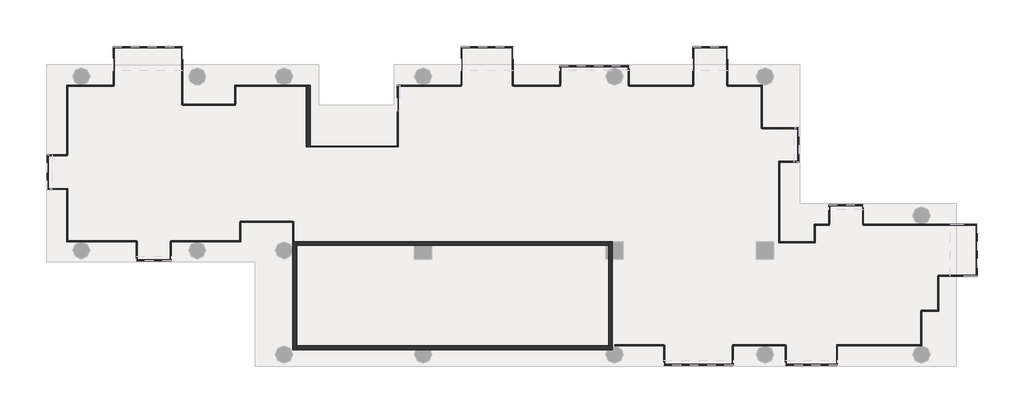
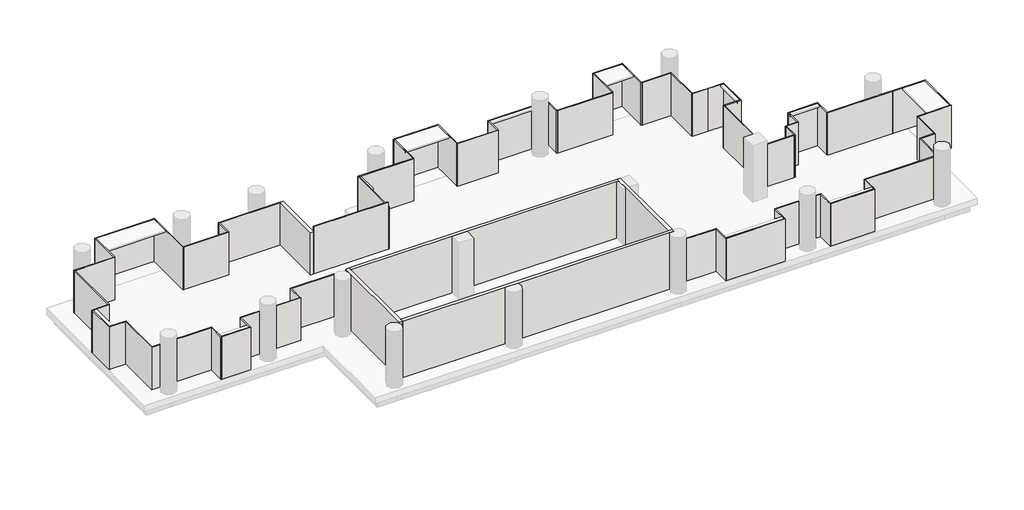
# One storey, part 1 of 2: 68 walls.
"""IFC4 building model written with IfcOpenShell, lengths in millimetres."""

from ifc_helpers import new_model, si_unit, frame, origin, place, context, project, spatial, polyline, outline, extrude, faceted_brep, element, save

model = new_model("IFC4")

# Units and contexts
model_context = context("Model", 3, world=origin())
ifc_project = project(units=[si_unit("LENGTHUNIT", "METRE", prefix="MILLI")], contexts=[model_context])

# Site, building, storey
site = spatial("IfcSite", under=ifc_project)
building = spatial("IfcBuilding", under=site)
storey = spatial("IfcBuildingStorey", under=building, Name="TW-L 11", Elevation=38799.9999686)

# Walls
placement = place(None, origin())
element("IfcWall", 1, ObjectType="AJN-ARC-CONCRETE WALL-20cm", at=placement, inside=storey, context=model_context, shape_type="Brep", body=[
    faceted_brep([(113050.0, 30750.0, 42399.9999686), (113050.0, 30750.0, 38799.9999686), (113050.0, 25150.0, 38799.9999686), (113050.0, 25150.0, 42399.9999686), (113250.0, 30750.0, 38799.9999686), (113250.0, 30750.0, 42399.9999686), (113250.0, 30550.0, 42399.9999686), (113250.0, 25350.0, 42399.9999686), (113250.0, 25150.0, 42399.9999686), (113250.0, 25150.0, 38799.9999686), (113250.0, 25350.0, 38799.9999686), (113250.0, 30550.0, 38799.9999686), (113097.1743518, 30750.0, 38799.9999686)], [[[0, 1, 2, 3]], [[4, 5, 6, 7, 8, 9, 10, 11]], [[2, 1, 12, 4, 11, 10, 9]], [[0, 3, 8, 7, 6, 5]], [[3, 2, 9, 8]], [[0, 5, 4, 12, 1]]]),
])
element("IfcWall", 2, ObjectType="AJN-ARC-CONCRETE WALL-20cm", at=placement, inside=storey, context=model_context, shape_type="Brep", body=[
    faceted_brep([(113250.0, 25150.0, 38799.9999686), (119425.8342613, 25150.0, 38799.9999686), (120174.1657387, 25150.0, 38799.9999686), (129325.8342613, 25150.0, 38799.9999686), (129600.0, 25150.0, 38799.9999686), (129600.0, 25150.0, 42399.9999686), (129325.8342613, 25150.0, 42399.9999686), (120174.1657387, 25150.0, 42399.9999686), (119425.8342613, 25150.0, 42399.9999686), (113250.0, 25150.0, 42399.9999686), (113250.0, 25350.0, 38799.9999686), (113250.0, 25350.0, 42399.9999686), (129400.0, 25350.0, 42399.9999686), (129600.0, 25350.0, 42399.9999686), (129600.0, 25350.0, 38799.9999686), (129400.0, 25350.0, 38799.9999686), (129600.0, 25338.7482194, 38799.9999686), (129600.0, 25338.7482194, 42399.9999686)], [[[0, 1, 2, 3, 4, 5, 6, 7, 8, 9]], [[10, 11, 12, 13, 14, 15]], [[4, 3, 2, 1, 0, 10, 15, 14, 16]], [[9, 8, 7, 6, 5, 17, 13, 12, 11]], [[5, 4, 16, 14, 13, 17]], [[0, 9, 11, 10]]]),
])
element("IfcWall", 3, ObjectType="AJN-ARC-CONCRETE WALL-20cm", at=placement, inside=storey, context=model_context, shape_type="Brep", body=[
    faceted_brep([(129600.0, 25350.0, 38799.9999686), (129600.0, 29850.0, 38799.9999686), (129600.0, 30750.0, 38799.9999686), (129600.0, 30750.0, 42399.9999686), (129600.0, 29850.0, 42399.9999686), (129600.0, 25350.0, 42399.9999686), (129400.0, 25350.0, 38799.9999686), (129400.0, 25350.0, 42399.9999686), (129400.0, 29850.0, 42399.9999686), (129400.0, 30550.0, 42399.9999686), (129400.0, 30750.0, 42399.9999686), (129400.0, 30750.0, 38799.9999686), (129400.0, 30550.0, 38799.9999686), (129400.0, 29850.0, 38799.9999686)], [[[0, 1, 2, 3, 4, 5]], [[6, 7, 8, 9, 10, 11, 12, 13]], [[2, 1, 0, 6, 13, 12, 11]], [[5, 4, 3, 10, 9, 8, 7]], [[3, 2, 11, 10]], [[0, 5, 7, 6]]]),
])
element("IfcWall", 4, ObjectType="AJN-ARC-CONCRETE WALL-20cm", at=placement, inside=storey, context=model_context, shape_type="Brep", body=[
    faceted_brep([(129400.0, 30750.0, 38799.9999686), (113250.0, 30750.0, 38799.9999686), (113250.0, 30750.0, 42399.9999686), (129400.0, 30750.0, 42399.9999686), (129400.0, 30550.0, 38799.9999686), (129400.0, 30550.0, 42399.9999686), (129250.0, 30550.0, 42399.9999686), (120250.0, 30550.0, 42399.9999686), (119350.0, 30550.0, 42399.9999686), (113250.0, 30550.0, 42399.9999686), (113250.0, 30550.0, 38799.9999686), (119350.0, 30550.0, 38799.9999686), (120250.0, 30550.0, 38799.9999686), (129250.0, 30550.0, 38799.9999686)], [[[0, 1, 2, 3]], [[4, 5, 6, 7, 8, 9, 10, 11, 12, 13]], [[1, 0, 4, 13, 12, 11, 10]], [[3, 2, 9, 8, 7, 6, 5]], [[0, 3, 5, 4]], [[1, 10, 9, 2]]]),
])
element("IfcWall", 5, ObjectType="AJN-ARC-CONCRETE WALL-20cm", at=placement, inside=storey, context=model_context, shape_type="Brep", body=[
    faceted_brep([(113950.0, 35650.0, 38799.9999686), (113950.0, 38850.001152, 38799.9999686), (113950.0, 38850.001152, 41499.9999686), (113950.0, 35650.0, 41499.9999686), (113750.0, 35650.0, 38799.9999686), (113750.0, 35650.0, 41499.9999686), (113750.0, 38800.001105, 41499.9999686), (113750.0, 38850.001105, 41499.9999686), (113750.0, 38850.001105, 38799.9999686), (113750.0, 38800.001105, 38799.9999686)], [[[0, 1, 2, 3]], [[4, 5, 6, 7, 8, 9]], [[1, 0, 4, 9, 8]], [[3, 2, 7, 6, 5]], [[0, 3, 5, 4]], [[2, 1, 8, 7]]]),
])
element("IfcWall", 6, ObjectType="AJN-ARC-GLASS-50mm", at=placement, inside=storey, context=model_context, shape_type="Brep", body=[
    faceted_brep([(113750.0, 38850.001105, 38799.9999686), (110050.0, 38850.0002356, 38799.9999686), (110050.0, 38850.0002356, 41499.9999686), (113750.0, 38850.001105, 41499.9999686), (113750.0, 38800.001105, 38799.9999686), (113750.0, 38800.001105, 41499.9999686), (110100.0, 38800.0002474, 41499.9999686), (110050.0, 38800.0002356, 41499.9999686), (110050.0, 38800.0002356, 38799.9999686), (110100.0, 38800.0002474, 38799.9999686)], [[[0, 1, 2, 3]], [[4, 5, 6, 7, 8, 9]], [[1, 0, 4, 9, 8]], [[3, 2, 7, 6, 5]], [[2, 1, 8, 7]], [[0, 3, 5, 4]]]),
])
element("IfcWall", 7, ObjectType="AJN-ARC-GLASS-50mm", at=placement, inside=storey, context=model_context, shape_type="SweptSolid", body=[
    extrude(outline(polyline([(110050.0, 37850.0), (110050.0, 38800.0002356), (110100.0, 38800.0002474), (110100.0, 37850.0), (110050.0, 37850.0)])), frame((0.0, 0.0, 38799.9999686), z_axis=(0.0, 0.0, 1.0), x_axis=(1.0, 0.0, 0.0)), (0.0, 0.0, 1.0), 2700.0),
])
element("IfcWall", 8, ObjectType="AJN-ARC-GLASS-50mm", at=placement, inside=storey, context=model_context, shape_type="SweptSolid", body=[
    extrude(outline(polyline([(107350.0, 37850.0), (110075.0, 37850.0), (110075.0, 37800.0), (107350.0, 37800.0), (107350.0, 37850.0)])), frame((0.0, 0.0, 38799.9999686), z_axis=(0.0, 0.0, 1.0), x_axis=(1.0, 0.0, 0.0)), (0.0, 0.0, 1.0), 2700.0),
])
element("IfcWall", 9, ObjectType="AJN-ARC-GLASS-50mm", at=placement, inside=storey, context=model_context, shape_type="Brep", body=[
    faceted_brep([(107350.0, 37825.0, 38799.9999686), (107350.0, 40850.0, 38799.9999686), (107350.0, 40850.0, 41499.9999686), (107350.0, 37825.0, 41499.9999686), (107300.0, 37825.0, 38799.9999686), (107300.0, 37825.0, 41499.9999686), (107300.0, 40800.0, 41499.9999686), (107300.0, 40850.0, 41499.9999686), (107300.0, 40850.0, 38799.9999686), (107300.0, 40800.0, 38799.9999686)], [[[0, 1, 2, 3]], [[4, 5, 6, 7, 8, 9]], [[1, 0, 4, 9, 8]], [[3, 2, 7, 6, 5]], [[0, 3, 5, 4]], [[2, 1, 8, 7]]]),
])
element("IfcWall", 10, ObjectType="AJN-ARC-GLASS-50mm", at=placement, inside=storey, context=model_context, shape_type="Brep", body=[
    faceted_brep([(107300.0, 40850.0, 38799.9999686), (103750.0, 40850.0, 38799.9999686), (103750.0, 40850.0, 41499.9999686), (107300.0, 40850.0, 41499.9999686), (107300.0, 40800.0, 38799.9999686), (107300.0, 40800.0, 41499.9999686), (103800.0, 40800.0, 41499.9999686), (103750.0, 40800.0, 41499.9999686), (103750.0, 40800.0, 38799.9999686), (103800.0, 40800.0, 38799.9999686)], [[[0, 1, 2, 3]], [[4, 5, 6, 7, 8, 9]], [[1, 0, 4, 9, 8]], [[3, 2, 7, 6, 5]], [[2, 1, 8, 7]], [[0, 3, 5, 4]]]),
])
element("IfcWall", 11, ObjectType="AJN-ARC-GLASS-50mm", at=placement, inside=storey, context=model_context, shape_type="SweptSolid", body=[
    extrude(outline(polyline([(103750.0, 38850.0), (103750.0, 40800.0), (103800.0, 40800.0), (103800.0, 38850.0), (103750.0, 38850.0)])), frame((0.0, 0.0, 38799.9999686), z_axis=(0.0, 0.0, 1.0), x_axis=(1.0, 0.0, 0.0)), (0.0, 0.0, 1.0), 2700.0),
])
element("IfcWall", 12, ObjectType="AJN-ARC-GLASS-50mm", at=placement, inside=storey, context=model_context, shape_type="Brep", body=[
    faceted_brep([(103775.000012, 38849.999988, 38799.9999686), (101347.1743518, 38850.001152, 38799.9999686), (101347.1743518, 38850.001152, 41499.9999686), (103775.000012, 38849.999988, 41499.9999686), (103774.999988, 38799.999988, 38799.9999686), (103774.999988, 38799.999988, 41499.9999686), (101397.1743518, 38800.001128, 41499.9999686), (101347.1743518, 38800.001152, 41499.9999686), (101347.1743518, 38800.001152, 38799.9999686), (101397.1743518, 38800.001128, 38799.9999686)], [[[0, 1, 2, 3]], [[4, 5, 6, 7, 8, 9]], [[1, 0, 4, 9, 8]], [[3, 2, 7, 6, 5]], [[0, 3, 5, 4]], [[2, 1, 8, 7]]]),
])
element("IfcWall", 13, ObjectType="AJN-ARC-GLASS-50mm", at=placement, inside=storey, context=model_context, shape_type="SweptSolid", body=[
    extrude(outline(polyline([(101347.1743518, 35250.0), (101347.1743518, 38800.001152), (101397.1743518, 38800.001128), (101397.1743518, 35250.0), (101347.1743518, 35250.0)])), frame((0.0, 0.0, 38799.9999686), z_axis=(0.0, 0.0, 1.0), x_axis=(1.0, 0.0, 0.0)), (0.0, 0.0, 1.0), 2700.0),
])
element("IfcWall", 14, ObjectType="AJN-ARC-GLASS-50mm", at=placement, inside=storey, context=model_context, shape_type="Brep", body=[
    faceted_brep([(101372.1743518, 35250.0, 38799.9999686), (100347.1743518, 35250.0, 38799.9999686), (100347.1743518, 35250.0, 41499.9999686), (101372.1743518, 35250.0, 41499.9999686), (101372.1743518, 35200.0, 38799.9999686), (101372.1743518, 35200.0, 41499.9999686), (100397.1743518, 35200.0, 41499.9999686), (100347.1743518, 35200.0, 41499.9999686), (100347.1743518, 35200.0, 38799.9999686), (100397.1743518, 35200.0, 38799.9999686)], [[[0, 1, 2, 3]], [[4, 5, 6, 7, 8, 9]], [[1, 0, 4, 9, 8]], [[3, 2, 7, 6, 5]], [[0, 3, 5, 4]], [[2, 1, 8, 7]]]),
])
element("IfcWall", 15, ObjectType="AJN-ARC-GLASS-50mm", at=placement, inside=storey, context=model_context, shape_type="Brep", body=[
    faceted_brep([(100347.1743518, 35200.0, 38799.9999686), (100347.1743518, 33450.0, 38799.9999686), (100347.1743518, 33450.0, 41499.9999686), (100347.1743518, 35200.0, 41499.9999686), (100397.1743518, 35200.0, 38799.9999686), (100397.1743518, 35200.0, 41499.9999686), (100397.1743518, 33500.0, 41499.9999686), (100397.1743518, 33450.0, 41499.9999686), (100397.1743518, 33450.0, 38799.9999686), (100397.1743518, 33500.0, 38799.9999686)], [[[0, 1, 2, 3]], [[4, 5, 6, 7, 8, 9]], [[1, 0, 4, 9, 8]], [[3, 2, 7, 6, 5]], [[2, 1, 8, 7]], [[0, 3, 5, 4]]]),
])
element("IfcWall", 16, ObjectType="AJN-ARC-GLASS-50mm", at=placement, inside=storey, context=model_context, shape_type="SweptSolid", body=[
    extrude(outline(polyline([(101347.1743518, 33450.0), (100397.1743518, 33450.0), (100397.1743518, 33500.0), (101347.1743518, 33500.0), (101347.1743518, 33450.0)])), frame((0.0, 0.0, 38799.9999686), z_axis=(0.0, 0.0, 1.0), x_axis=(1.0, 0.0, 0.0)), (0.0, 0.0, 1.0), 2700.0),
])
element("IfcWall", 17, ObjectType="AJN-ARC-GLASS-50mm", at=placement, inside=storey, context=model_context, shape_type="Brep", body=[
    faceted_brep([(101347.1743518, 33475.0, 38799.9999686), (101347.1743518, 30750.0, 38799.9999686), (101347.1743518, 30750.0, 41499.9999686), (101347.1743518, 33475.0, 41499.9999686), (101397.1743518, 33475.0, 38799.9999686), (101397.1743518, 33475.0, 41499.9999686), (101397.1743518, 30800.0, 41499.9999686), (101397.1743518, 30750.0, 41499.9999686), (101397.1743518, 30750.0, 38799.9999686), (101397.1743518, 30800.0, 38799.9999686)], [[[0, 1, 2, 3]], [[4, 5, 6, 7, 8, 9]], [[1, 0, 4, 9, 8]], [[3, 2, 7, 6, 5]], [[0, 3, 5, 4]], [[2, 1, 8, 7]]]),
])
element("IfcWall", 18, ObjectType="AJN-ARC-GLASS-50mm", at=placement, inside=storey, context=model_context, shape_type="SweptSolid", body=[
    extrude(outline(polyline([(104947.1743518, 30750.0), (101397.1743518, 30750.0), (101397.1743518, 30800.0), (104947.1743518, 30800.0), (104947.1743518, 30750.0)])), frame((0.0, 0.0, 38799.9999686), z_axis=(0.0, 0.0, 1.0), x_axis=(1.0, 0.0, 0.0)), (0.0, 0.0, 1.0), 2700.0),
])
element("IfcWall", 19, ObjectType="AJN-ARC-GLASS-50mm", at=placement, inside=storey, context=model_context, shape_type="Brep", body=[
    faceted_brep([(104947.1743518, 30775.0, 38799.9999686), (104947.1743518, 29750.0, 38799.9999686), (104947.1743518, 29750.0, 41499.9999686), (104947.1743518, 30775.0, 41499.9999686), (104997.1743518, 30775.0, 38799.9999686), (104997.1743518, 30775.0, 41499.9999686), (104997.1743518, 29800.0, 41499.9999686), (104997.1743518, 29750.0, 41499.9999686), (104997.1743518, 29750.0, 38799.9999686), (104997.1743518, 29800.0, 38799.9999686)], [[[0, 1, 2, 3]], [[4, 5, 6, 7, 8, 9]], [[1, 0, 4, 9, 8]], [[3, 2, 7, 6, 5]], [[0, 3, 5, 4]], [[2, 1, 8, 7]]]),
])
element("IfcWall", 20, ObjectType="AJN-ARC-GLASS-50mm", at=placement, inside=storey, context=model_context, shape_type="Brep", body=[
    faceted_brep([(104997.1743518, 29750.0, 38799.9999686), (106747.1743518, 29750.0, 38799.9999686), (106747.1743518, 29750.0, 41499.9999686), (104997.1743518, 29750.0, 41499.9999686), (104997.1743518, 29800.0, 38799.9999686), (104997.1743518, 29800.0, 41499.9999686), (106697.1743518, 29800.0, 41499.9999686), (106747.1743518, 29800.0, 41499.9999686), (106747.1743518, 29800.0, 38799.9999686), (106697.1743518, 29800.0, 38799.9999686)], [[[0, 1, 2, 3]], [[4, 5, 6, 7, 8, 9]], [[1, 0, 4, 9, 8]], [[3, 2, 7, 6, 5]], [[2, 1, 8, 7]], [[0, 3, 5, 4]]]),
])
element("IfcWall", 21, ObjectType="AJN-ARC-GLASS-50mm", at=placement, inside=storey, context=model_context, shape_type="SweptSolid", body=[
    extrude(outline(polyline([(106747.1743518, 30750.0), (106747.1743518, 29800.0), (106697.1743518, 29800.0), (106697.1743518, 30750.0), (106747.1743518, 30750.0)])), frame((0.0, 0.0, 38799.9999686), z_axis=(0.0, 0.0, 1.0), x_axis=(1.0, 0.0, 0.0)), (0.0, 0.0, 1.0), 2700.0),
])
element("IfcWall", 22, ObjectType="AJN-ARC-GLASS-50mm", at=placement, inside=storey, context=model_context, shape_type="Brep", body=[
    faceted_brep([(106722.1743518, 30750.0, 38799.9999686), (110347.1743518, 30750.0, 38799.9999686), (110347.1743518, 30750.0, 41499.9999686), (106722.1743518, 30750.0, 41499.9999686), (106722.1743518, 30800.0, 38799.9999686), (106722.1743518, 30800.0, 41499.9999686), (110297.1743518, 30800.0, 41499.9999686), (110347.1743518, 30800.0, 41499.9999686), (110347.1743518, 30800.0, 38799.9999686), (110297.1743518, 30800.0, 38799.9999686)], [[[0, 1, 2, 3]], [[4, 5, 6, 7, 8, 9]], [[1, 0, 4, 9, 8]], [[3, 2, 7, 6, 5]], [[0, 3, 5, 4]], [[2, 1, 8, 7]]]),
])
element("IfcWall", 23, ObjectType="AJN-ARC-GLASS-50mm", at=placement, inside=storey, context=model_context, shape_type="SweptSolid", body=[
    extrude(outline(polyline([(110347.1743518, 31750.0), (110347.1743518, 30800.0), (110297.1743518, 30800.0), (110297.1743518, 31750.0), (110347.1743518, 31750.0)])), frame((0.0, 0.0, 38799.9999686), z_axis=(0.0, 0.0, 1.0), x_axis=(1.0, 0.0, 0.0)), (0.0, 0.0, 1.0), 2700.0),
])
element("IfcWall", 24, ObjectType="AJN-ARC-GLASS-50mm", at=placement, inside=storey, context=model_context, shape_type="SweptSolid", body=[
    extrude(outline(polyline([(113047.1743518, 31750.0), (110322.1743518, 31750.0), (110322.1743518, 31800.0), (113047.1743518, 31800.0), (113047.1743518, 31750.0)])), frame((0.0, 0.0, 38799.9999686), z_axis=(0.0, 0.0, 1.0), x_axis=(1.0, 0.0, 0.0)), (0.0, 0.0, 1.0), 2700.0),
])
element("IfcWall", 25, ObjectType="AJN-ARC-GLASS-50mm", at=placement, inside=storey, context=model_context, shape_type="Brep", body=[
    faceted_brep([(113047.1743518, 31775.0, 38799.9999686), (113047.1743518, 30750.0, 38799.9999686), (113047.1743518, 30750.0, 41499.9999686), (113047.1743518, 31775.0, 41499.9999686), (113097.1743518, 31775.0, 38799.9999686), (113097.1743518, 31775.0, 41499.9999686), (113097.1743518, 30750.0, 41499.9999686), (113097.1743518, 30750.0, 38799.9999686), (113050.0, 30750.0, 38799.9999686)], [[[0, 1, 2, 3]], [[4, 5, 6, 7]], [[1, 0, 4, 7, 8]], [[3, 2, 6, 5]], [[0, 3, 5, 4]], [[2, 1, 8, 7, 6]]]),
])
element("IfcWall", 26, ObjectType="AJN-ARC-GLASS-50mm", at=placement, inside=storey, context=model_context, shape_type="Brep", body=[
    faceted_brep([(138250.0, 30700.0, 38799.9999686), (138250.0, 30750.0, 38799.9999686), (138250.0, 34850.0, 38799.9999686), (138250.0, 34850.0, 41499.9999686), (138250.0, 30750.0, 41499.9999686), (138250.0, 30700.0, 41499.9999686), (138200.0, 30700.0, 38799.9999686), (138200.0, 30700.0, 41499.9999686), (138200.0, 34850.0, 41499.9999686), (138200.0, 34850.0, 38799.9999686)], [[[0, 1, 2, 3, 4, 5]], [[6, 7, 8, 9]], [[2, 1, 0, 6, 9]], [[5, 4, 3, 8, 7]], [[0, 5, 7, 6]], [[3, 2, 9, 8]]]),
])
element("IfcWall", 27, ObjectType="AJN-ARC-GLASS-50mm", at=placement, inside=storey, context=model_context, shape_type="Brep", body=[
    faceted_brep([(138200.0, 34850.0, 38799.9999686), (138250.0, 34850.0, 38799.9999686), (139250.0, 34850.0, 38799.9999686), (139250.0, 34850.0, 41499.9999686), (138250.0, 34850.0, 41499.9999686), (138200.0, 34850.0, 41499.9999686), (138200.0, 34900.0, 38799.9999686), (138200.0, 34900.0, 41499.9999686), (139200.0, 34900.0, 41499.9999686), (139250.0, 34900.0, 41499.9999686), (139250.0, 34900.0, 38799.9999686), (139200.0, 34900.0, 38799.9999686)], [[[0, 1, 2, 3, 4, 5]], [[6, 7, 8, 9, 10, 11]], [[2, 1, 0, 6, 11, 10]], [[5, 4, 3, 9, 8, 7]], [[3, 2, 10, 9]], [[0, 5, 7, 6]]]),
])
element("IfcWall", 28, ObjectType="AJN-ARC-GLASS-50mm", at=placement, inside=storey, context=model_context, shape_type="Brep", body=[
    faceted_brep([(139250.0, 34900.0, 38799.9999686), (139250.0, 36650.0, 38799.9999686), (139250.0, 36650.0, 41499.9999686), (139250.0, 34900.0, 41499.9999686), (139200.0, 34900.0, 38799.9999686), (139200.0, 34900.0, 41499.9999686), (139200.0, 36600.0, 41499.9999686), (139200.0, 36650.0, 41499.9999686), (139200.0, 36650.0, 38799.9999686), (139200.0, 36600.0, 38799.9999686)], [[[0, 1, 2, 3]], [[4, 5, 6, 7, 8, 9]], [[1, 0, 4, 9, 8]], [[3, 2, 7, 6, 5]], [[2, 1, 8, 7]], [[0, 3, 5, 4]]]),
])
element("IfcWall", 29, ObjectType="AJN-ARC-GLASS-50mm", at=placement, inside=storey, context=model_context, shape_type="SweptSolid", body=[
    extrude(outline(polyline([(138250.0, 36650.0), (139200.0, 36650.0), (139200.0, 36600.0), (138250.0, 36600.0), (138250.0, 36650.0)])), frame((0.0, 0.0, 38799.9999686), z_axis=(0.0, 0.0, 1.0), x_axis=(1.0, 0.0, 0.0)), (0.0, 0.0, 1.0), 2700.0),
])
element("IfcWall", 30, ObjectType="AJN-ARC-GLASS-50mm", at=placement, inside=storey, context=model_context, shape_type="SweptSolid", body=[
    extrude(outline(polyline([(137350.0, 36650.0), (138250.0, 36650.0), (138250.0, 36600.0), (137350.0, 36600.0), (137350.0, 36650.0)])), frame((0.0, 0.0, 38799.9999686), z_axis=(0.0, 0.0, 1.0), x_axis=(1.0, 0.0, 0.0)), (0.0, 0.0, 1.0), 2700.0),
])
element("IfcWall", 31, ObjectType="AJN-ARC-GLASS-50mm", at=placement, inside=storey, context=model_context, shape_type="Brep", body=[
    faceted_brep([(137350.0, 36625.0, 38799.9999686), (137350.0, 38850.0, 38799.9999686), (137350.0, 38850.0, 41499.9999686), (137350.0, 36625.0, 41499.9999686), (137300.0, 36625.0, 38799.9999686), (137300.0, 36625.0, 41499.9999686), (137300.0, 38800.0, 41499.9999686), (137300.0, 38850.0, 41499.9999686), (137300.0, 38850.0, 38799.9999686), (137300.0, 38800.0, 38799.9999686)], [[[0, 1, 2, 3]], [[4, 5, 6, 7, 8, 9]], [[1, 0, 4, 9, 8]], [[3, 2, 7, 6, 5]], [[0, 3, 5, 4]], [[2, 1, 8, 7]]]),
])
element("IfcWall", 32, ObjectType="AJN-ARC-GLASS-50mm", at=placement, inside=storey, context=model_context, shape_type="SweptSolid", body=[
    extrude(outline(polyline([(135557.0344085, 38850.0), (137300.0, 38850.0), (137300.0, 38800.0), (135557.0344085, 38800.0), (135557.0344085, 38850.0)])), frame((0.0, 0.0, 38799.9999686), z_axis=(0.0, 0.0, 1.0), x_axis=(1.0, 0.0, 0.0)), (0.0, 0.0, 1.0), 2700.0),
])
element("IfcWall", 33, ObjectType="AJN-ARC-GLASS-50mm", at=placement, inside=storey, context=model_context, shape_type="Brep", body=[
    faceted_brep([(135557.0344085, 38825.0, 38799.9999686), (135557.0344085, 40850.0, 38799.9999686), (135557.0344085, 40850.0, 41499.9999686), (135557.0344085, 38825.0, 41499.9999686), (135507.0344085, 38825.0, 38799.9999686), (135507.0344085, 38825.0, 41499.9999686), (135507.0344085, 40800.0, 41499.9999686), (135507.0344085, 40850.0, 41499.9999686), (135507.0344085, 40850.0, 38799.9999686), (135507.0344085, 40800.0, 38799.9999686)], [[[0, 1, 2, 3]], [[4, 5, 6, 7, 8, 9]], [[1, 0, 4, 9, 8]], [[3, 2, 7, 6, 5]], [[0, 3, 5, 4]], [[2, 1, 8, 7]]]),
])
element("IfcWall", 34, ObjectType="AJN-ARC-GLASS-50mm", at=placement, inside=storey, context=model_context, shape_type="Brep", body=[
    faceted_brep([(135507.0344085, 40850.0, 38799.9999686), (133757.0344085, 40850.0, 38799.9999686), (133757.0344085, 40850.0, 41499.9999686), (135507.0344085, 40850.0, 41499.9999686), (135507.0344085, 40800.0, 38799.9999686), (135507.0344085, 40800.0, 41499.9999686), (133807.0344085, 40800.0, 41499.9999686), (133757.0344085, 40800.0, 41499.9999686), (133757.0344085, 40800.0, 38799.9999686), (133807.0344085, 40800.0, 38799.9999686)], [[[0, 1, 2, 3]], [[4, 5, 6, 7, 8, 9]], [[1, 0, 4, 9, 8]], [[3, 2, 7, 6, 5]], [[2, 1, 8, 7]], [[0, 3, 5, 4]]]),
])
element("IfcWall", 35, ObjectType="AJN-ARC-GLASS-50mm", at=placement, inside=storey, context=model_context, shape_type="SweptSolid", body=[
    extrude(outline(polyline([(133757.0344085, 38850.0), (133757.0344085, 40800.0), (133807.0344085, 40800.0), (133807.0344085, 38850.0), (133757.0344085, 38850.0)])), frame((0.0, 0.0, 38799.9999686), z_axis=(0.0, 0.0, 1.0), x_axis=(1.0, 0.0, 0.0)), (0.0, 0.0, 1.0), 2700.0),
])
element("IfcWall", 36, ObjectType="AJN-ARC-GLASS-50mm", at=placement, inside=storey, context=model_context, shape_type="SweptSolid", body=[
    extrude(outline(polyline([(130463.0639015, 38850.0), (133782.0344085, 38850.0), (133782.0344085, 38800.0), (130463.0639015, 38800.0), (130463.0639015, 38850.0)])), frame((0.0, 0.0, 38799.9999686), z_axis=(0.0, 0.0, 1.0), x_axis=(1.0, 0.0, 0.0)), (0.0, 0.0, 1.0), 2700.0),
])
element("IfcWall", 37, ObjectType="AJN-ARC-GLASS-50mm", at=placement, inside=storey, context=model_context, shape_type="Brep", body=[
    faceted_brep([(130463.0639015, 38825.0, 38799.9999686), (130463.0639015, 39850.0, 38799.9999686), (130463.0639015, 39850.0, 41499.9999686), (130463.0639015, 38825.0, 41499.9999686), (130413.0639015, 38825.0, 38799.9999686), (130413.0639015, 38825.0, 41499.9999686), (130413.0639015, 39800.0, 41499.9999686), (130413.0639015, 39850.0, 41499.9999686), (130413.0639015, 39850.0, 38799.9999686), (130413.0639015, 39800.0, 38799.9999686)], [[[0, 1, 2, 3]], [[4, 5, 6, 7, 8, 9]], [[1, 0, 4, 9, 8]], [[3, 2, 7, 6, 5]], [[0, 3, 5, 4]], [[2, 1, 8, 7]]]),
])
element("IfcWall", 38, ObjectType="AJN-ARC-GLASS-50mm", at=placement, inside=storey, context=model_context, shape_type="Brep", body=[
    faceted_brep([(130413.0639015, 39850.0, 38799.9999686), (126863.0639015, 39850.0, 38799.9999686), (126863.0639015, 39850.0, 41499.9999686), (130413.0639015, 39850.0, 41499.9999686), (130413.0639015, 39800.0, 38799.9999686), (130413.0639015, 39800.0, 41499.9999686), (126913.0639015, 39800.0, 41499.9999686), (126863.0639015, 39800.0, 41499.9999686), (126863.0639015, 39800.0, 38799.9999686), (126913.0639015, 39800.0, 38799.9999686)], [[[0, 1, 2, 3]], [[4, 5, 6, 7, 8, 9]], [[1, 0, 4, 9, 8]], [[3, 2, 7, 6, 5]], [[2, 1, 8, 7]], [[0, 3, 5, 4]]]),
])
element("IfcWall", 39, ObjectType="AJN-ARC-GLASS-50mm", at=placement, inside=storey, context=model_context, shape_type="SweptSolid", body=[
    extrude(outline(polyline([(126863.0639015, 38850.0), (126863.0639015, 39800.0), (126913.0639015, 39800.0), (126913.0639015, 38850.0), (126863.0639015, 38850.0)])), frame((0.0, 0.0, 38799.9999686), z_axis=(0.0, 0.0, 1.0), x_axis=(1.0, 0.0, 0.0)), (0.0, 0.0, 1.0), 2700.0),
])
element("IfcWall", 40, ObjectType="AJN-ARC-GLASS-50mm", at=placement, inside=storey, context=model_context, shape_type="SweptSolid", body=[
    extrude(outline(polyline([(124459.0442395, 38850.0), (126888.0639015, 38850.0), (126888.0639015, 38800.0), (124459.0442395, 38800.0), (124459.0442395, 38850.0)])), frame((0.0, 0.0, 38799.9999686), z_axis=(0.0, 0.0, 1.0), x_axis=(1.0, 0.0, 0.0)), (0.0, 0.0, 1.0), 2700.0),
])
element("IfcWall", 41, ObjectType="AJN-ARC-GLASS-50mm", at=placement, inside=storey, context=model_context, shape_type="Brep", body=[
    faceted_brep([(124459.0442395, 38825.0, 38799.9999686), (124459.0442395, 40850.0, 38799.9999686), (124459.0442395, 40850.0, 41499.9999686), (124459.0442395, 38825.0, 41499.9999686), (124409.0442395, 38825.0, 38799.9999686), (124409.0442395, 38825.0, 41499.9999686), (124409.0442395, 40800.0, 41499.9999686), (124409.0442395, 40850.0, 41499.9999686), (124409.0442395, 40850.0, 38799.9999686), (124409.0442395, 40800.0, 38799.9999686)], [[[0, 1, 2, 3]], [[4, 5, 6, 7, 8, 9]], [[1, 0, 4, 9, 8]], [[3, 2, 7, 6, 5]], [[0, 3, 5, 4]], [[2, 1, 8, 7]]]),
])
element("IfcWall", 42, ObjectType="AJN-ARC-GLASS-50mm", at=placement, inside=storey, context=model_context, shape_type="Brep", body=[
    faceted_brep([(124409.0442395, 40850.0, 38799.9999686), (121759.0442395, 40850.0, 38799.9999686), (121759.0442395, 40850.0, 41499.9999686), (124409.0442395, 40850.0, 41499.9999686), (124409.0442395, 40800.0, 38799.9999686), (124409.0442395, 40800.0, 41499.9999686), (121809.0442395, 40800.0, 41499.9999686), (121759.0442395, 40800.0, 41499.9999686), (121759.0442395, 40800.0, 38799.9999686), (121809.0442395, 40800.0, 38799.9999686)], [[[0, 1, 2, 3]], [[4, 5, 6, 7, 8, 9]], [[1, 0, 4, 9, 8]], [[3, 2, 7, 6, 5]], [[2, 1, 8, 7]], [[0, 3, 5, 4]]]),
])
element("IfcWall", 43, ObjectType="AJN-ARC-GLASS-50mm", at=placement, inside=storey, context=model_context, shape_type="SweptSolid", body=[
    extrude(outline(polyline([(121759.0442395, 38850.0), (121759.0442395, 40800.0), (121809.0442395, 40800.0), (121809.0442395, 38850.0), (121759.0442395, 38850.0)])), frame((0.0, 0.0, 38799.9999686), z_axis=(0.0, 0.0, 1.0), x_axis=(1.0, 0.0, 0.0)), (0.0, 0.0, 1.0), 2700.0),
])
element("IfcWall", 44, ObjectType="AJN-ARC-GLASS-50mm", at=placement, inside=storey, context=model_context, shape_type="Brep", body=[
    faceted_brep([(121784.0442395, 38850.0, 38799.9999686), (118450.0, 38850.0, 38799.9999686), (118450.0, 38850.0, 41499.9999686), (121784.0442395, 38850.0, 41499.9999686), (121784.0442395, 38800.0, 38799.9999686), (121784.0442395, 38800.0, 41499.9999686), (118500.0, 38800.0, 41499.9999686), (118450.0, 38800.0, 41499.9999686), (118450.0, 38800.0, 38799.9999686), (118500.0, 38800.0, 38799.9999686)], [[[0, 1, 2, 3]], [[4, 5, 6, 7, 8, 9]], [[1, 0, 4, 9, 8]], [[3, 2, 7, 6, 5]], [[0, 3, 5, 4]], [[2, 1, 8, 7]]]),
])
element("IfcWall", 45, ObjectType="AJN-ARC-GLASS-50mm", at=placement, inside=storey, context=model_context, shape_type="SweptSolid", body=[
    extrude(outline(polyline([(132250.3827907, 25350.0), (129714.068817, 25350.0), (129714.068817, 25400.0), (132250.3827907, 25400.0), (132250.3827907, 25350.0)])), frame((0.0, 0.0, 38799.9999686), z_axis=(0.0, 0.0, 1.0), x_axis=(1.0, 0.0, 0.0)), (0.0, 0.0, 1.0), 2700.0),
])
element("IfcWall", 46, ObjectType="AJN-ARC-GLASS-50mm", at=placement, inside=storey, context=model_context, shape_type="Brep", body=[
    faceted_brep([(132250.3827907, 25375.0, 38799.9999686), (132250.3827907, 24350.0, 38799.9999686), (132250.3827907, 24350.0, 41499.9999686), (132250.3827907, 25375.0, 41499.9999686), (132300.3827907, 25375.0, 38799.9999686), (132300.3827907, 25375.0, 41499.9999686), (132300.3827907, 24400.0, 41499.9999686), (132300.3827907, 24350.0, 41499.9999686), (132300.3827907, 24350.0, 38799.9999686), (132300.3827907, 24400.0, 38799.9999686)], [[[0, 1, 2, 3]], [[4, 5, 6, 7, 8, 9]], [[1, 0, 4, 9, 8]], [[3, 2, 7, 6, 5]], [[0, 3, 5, 4]], [[2, 1, 8, 7]]]),
])
element("IfcWall", 47, ObjectType="AJN-ARC-GLASS-50mm", at=placement, inside=storey, context=model_context, shape_type="Brep", body=[
    faceted_brep([(132300.3827907, 24350.0, 38799.9999686), (135850.3827907, 24350.0, 38799.9999686), (135850.3827907, 24350.0, 41499.9999686), (132300.3827907, 24350.0, 41499.9999686), (132300.3827907, 24400.0, 38799.9999686), (132300.3827907, 24400.0, 41499.9999686), (135800.3827907, 24400.0, 41499.9999686), (135850.3827907, 24400.0, 41499.9999686), (135850.3827907, 24400.0, 38799.9999686), (135800.3827907, 24400.0, 38799.9999686)], [[[0, 1, 2, 3]], [[4, 5, 6, 7, 8, 9]], [[1, 0, 4, 9, 8]], [[3, 2, 7, 6, 5]], [[2, 1, 8, 7]], [[0, 3, 5, 4]]]),
])
element("IfcWall", 48, ObjectType="AJN-ARC-GLASS-50mm", at=placement, inside=storey, context=model_context, shape_type="SweptSolid", body=[
    extrude(outline(polyline([(135850.3827907, 25350.0), (135850.3827907, 24400.0), (135800.3827907, 24400.0), (135800.3827907, 25350.0), (135850.3827907, 25350.0)])), frame((0.0, 0.0, 38799.9999686), z_axis=(0.0, 0.0, 1.0), x_axis=(1.0, 0.0, 0.0)), (0.0, 0.0, 1.0), 2700.0),
])
element("IfcWall", 49, ObjectType="AJN-ARC-GLASS-50mm", at=placement, inside=storey, context=model_context, shape_type="SweptSolid", body=[
    extrude(outline(polyline([(138550.3827907, 25350.0), (135825.3827907, 25350.0), (135825.3827907, 25400.0), (138550.3827907, 25400.0), (138550.3827907, 25350.0)])), frame((0.0, 0.0, 38799.9999686), z_axis=(0.0, 0.0, 1.0), x_axis=(1.0, 0.0, 0.0)), (0.0, 0.0, 1.0), 2700.0),
])
element("IfcWall", 50, ObjectType="AJN-ARC-GLASS-50mm", at=placement, inside=storey, context=model_context, shape_type="Brep", body=[
    faceted_brep([(138550.3827907, 25375.0, 38799.9999686), (138550.3827907, 24350.0, 38799.9999686), (138550.3827907, 24350.0, 41499.9999686), (138550.3827907, 25375.0, 41499.9999686), (138600.3827907, 25375.0, 38799.9999686), (138600.3827907, 25375.0, 41499.9999686), (138600.3827907, 24400.0, 41499.9999686), (138600.3827907, 24350.0, 41499.9999686), (138600.3827907, 24350.0, 38799.9999686), (138600.3827907, 24400.0, 38799.9999686)], [[[0, 1, 2, 3]], [[4, 5, 6, 7, 8, 9]], [[1, 0, 4, 9, 8]], [[3, 2, 7, 6, 5]], [[0, 3, 5, 4]], [[2, 1, 8, 7]]]),
])
element("IfcWall", 51, ObjectType="AJN-ARC-GLASS-50mm", at=placement, inside=storey, context=model_context, shape_type="Brep", body=[
    faceted_brep([(138600.3827907, 24350.0, 38799.9999686), (141250.3827907, 24350.0, 38799.9999686), (141250.3827907, 24350.0, 41499.9999686), (138600.3827907, 24350.0, 41499.9999686), (138600.3827907, 24400.0, 38799.9999686), (138600.3827907, 24400.0, 41499.9999686), (141200.3827907, 24400.0, 41499.9999686), (141250.3827907, 24400.0, 41499.9999686), (141250.3827907, 24400.0, 38799.9999686), (141200.3827907, 24400.0, 38799.9999686)], [[[0, 1, 2, 3]], [[4, 5, 6, 7, 8, 9]], [[1, 0, 4, 9, 8]], [[3, 2, 7, 6, 5]], [[2, 1, 8, 7]], [[0, 3, 5, 4]]]),
])
element("IfcWall", 52, ObjectType="AJN-ARC-GLASS-50mm", at=placement, inside=storey, context=model_context, shape_type="SweptSolid", body=[
    extrude(outline(polyline([(141250.3827907, 25350.0), (141250.3827907, 24400.0), (141200.3827907, 24400.0), (141200.3827907, 25350.0), (141250.3827907, 25350.0)])), frame((0.0, 0.0, 38799.9999686), z_axis=(0.0, 0.0, 1.0), x_axis=(1.0, 0.0, 0.0)), (0.0, 0.0, 1.0), 2700.0),
])
element("IfcWall", 53, ObjectType="AJN-ARC-GLASS-50mm", at=placement, inside=storey, context=model_context, shape_type="Brep", body=[
    faceted_brep([(141225.3827907, 25350.0, 38799.9999686), (145613.2302513, 25350.0, 38799.9999686), (145613.2302513, 25350.0, 41499.9999686), (141225.3827907, 25350.0, 41499.9999686), (141225.3827907, 25400.0, 38799.9999686), (141225.3827907, 25400.0, 41499.9999686), (145563.2302513, 25400.0, 41499.9999686), (145613.2302513, 25400.0, 41499.9999686), (145613.2302513, 25400.0, 38799.9999686), (145563.2302513, 25400.0, 38799.9999686)], [[[0, 1, 2, 3]], [[4, 5, 6, 7, 8, 9]], [[1, 0, 4, 9, 8]], [[3, 2, 7, 6, 5]], [[0, 3, 5, 4]], [[2, 1, 8, 7]]]),
])
element("IfcWall", 54, ObjectType="AJN-ARC-GLASS-50mm", at=placement, inside=storey, context=model_context, shape_type="SweptSolid", body=[
    extrude(outline(polyline([(145613.2302513, 27150.8137487), (145613.2302513, 25400.0), (145563.2302513, 25400.0), (145563.2302513, 27150.8137487), (145613.2302513, 27150.8137487)])), frame((0.0, 0.0, 38799.9999686), z_axis=(0.0, 0.0, 1.0), x_axis=(1.0, 0.0, 0.0)), (0.0, 0.0, 1.0), 2700.0),
])
element("IfcWall", 55, ObjectType="AJN-ARC-GLASS-50mm", at=placement, inside=storey, context=model_context, shape_type="Brep", body=[
    faceted_brep([(145588.2302513, 27150.8137487, 38799.9999686), (146497.681474, 27150.8137487, 38799.9999686), (146497.681474, 27150.8137487, 41499.9999686), (145588.2302513, 27150.8137487, 41499.9999686), (145588.2302513, 27200.8137487, 38799.9999686), (145588.2302513, 27200.8137487, 41499.9999686), (146447.681474, 27200.8137487, 41499.9999686), (146497.681474, 27200.8137487, 41499.9999686), (146497.681474, 27200.8137487, 38799.9999686), (146447.681474, 27200.8137487, 38799.9999686)], [[[0, 1, 2, 3]], [[4, 5, 6, 7, 8, 9]], [[1, 0, 4, 9, 8]], [[3, 2, 7, 6, 5]], [[0, 3, 5, 4]], [[2, 1, 8, 7]]]),
])
element("IfcWall", 56, ObjectType="AJN-ARC-GLASS-50mm", at=placement, inside=storey, context=model_context, shape_type="SweptSolid", body=[
    extrude(outline(polyline([(146497.681474, 28951.6593424), (146497.681474, 27200.8137487), (146447.681474, 27200.8137487), (146447.681474, 28951.6593424), (146497.681474, 28951.6593424)])), frame((0.0, 0.0, 38799.9999686), z_axis=(0.0, 0.0, 1.0), x_axis=(1.0, 0.0, 0.0)), (0.0, 0.0, 1.0), 2700.0),
])
element("IfcWall", 57, ObjectType="AJN-ARC-GLASS-50mm", at=placement, inside=storey, context=model_context, shape_type="Brep", body=[
    faceted_brep([(146472.681474, 28951.6593424, 38799.9999686), (148497.681474, 28951.6593424, 38799.9999686), (148497.681474, 28951.6593424, 41499.9999686), (146472.681474, 28951.6593424, 41499.9999686), (146472.681474, 29001.6593424, 38799.9999686), (146472.681474, 29001.6593424, 41499.9999686), (148447.681474, 29001.6593424, 41499.9999686), (148497.681474, 29001.6593424, 41499.9999686), (148497.681474, 29001.6593424, 38799.9999686), (148447.681474, 29001.6593424, 38799.9999686)], [[[0, 1, 2, 3]], [[4, 5, 6, 7, 8, 9]], [[1, 0, 4, 9, 8]], [[3, 2, 7, 6, 5]], [[0, 3, 5, 4]], [[2, 1, 8, 7]]]),
])
element("IfcWall", 58, ObjectType="AJN-ARC-GLASS-50mm", at=placement, inside=storey, context=model_context, shape_type="Brep", body=[
    faceted_brep([(148497.681474, 29001.6593424, 38799.9999686), (148497.681474, 31651.6593424, 38799.9999686), (148497.681474, 31651.6593424, 41499.9999686), (148497.681474, 29001.6593424, 41499.9999686), (148447.681474, 29001.6593424, 38799.9999686), (148447.681474, 29001.6593424, 41499.9999686), (148447.681474, 31601.6593424, 41499.9999686), (148447.681474, 31651.6593424, 41499.9999686), (148447.681474, 31651.6593424, 38799.9999686), (148447.681474, 31601.6593424, 38799.9999686)], [[[0, 1, 2, 3]], [[4, 5, 6, 7, 8, 9]], [[1, 0, 4, 9, 8]], [[3, 2, 7, 6, 5]], [[2, 1, 8, 7]], [[0, 3, 5, 4]]]),
])
element("IfcWall", 59, ObjectType="AJN-ARC-GLASS-50mm", at=placement, inside=storey, context=model_context, shape_type="SweptSolid", body=[
    extrude(outline(polyline([(146497.681474, 31651.6593424), (148447.681474, 31651.6593424), (148447.681474, 31601.6593424), (146497.681474, 31601.6593424), (146497.681474, 31651.6593424)])), frame((0.0, 0.0, 38799.9999686), z_axis=(0.0, 0.0, 1.0), x_axis=(1.0, 0.0, 0.0)), (0.0, 0.0, 1.0), 2700.0),
])
element("IfcWall", 60, ObjectType="AJN-ARC-GLASS-50mm", at=placement, inside=storey, context=model_context, shape_type="Brep", body=[
    faceted_brep([(146497.681474, 31651.6593424, 38799.9999686), (145638.6089983, 31651.6593424, 38799.9999686), (145561.3910017, 31651.6593424, 38799.9999686), (142597.681474, 31651.6593424, 38799.9999686), (142597.681474, 31651.6593424, 41499.9999686), (145561.3910017, 31651.6593424, 41499.9999686), (145638.6089983, 31651.6593424, 41499.9999686), (146497.681474, 31651.6593424, 41499.9999686), (146497.681474, 31601.6593424, 38799.9999686), (146497.681474, 31601.6593424, 41499.9999686), (142597.681474, 31601.6593424, 41499.9999686), (142597.681474, 31601.6593424, 38799.9999686)], [[[0, 1, 2, 3, 4, 5, 6, 7]], [[8, 9, 10, 11]], [[3, 2, 1, 0, 8, 11]], [[4, 3, 11, 10]], [[7, 6, 5, 4, 10, 9]], [[0, 7, 9, 8]]]),
])
element("IfcWall", 61, ObjectType="AJN-ARC-GLASS-50mm", at=placement, inside=storey, context=model_context, shape_type="Brep", body=[
    faceted_brep([(142597.681474, 31626.6593424, 38799.9999686), (142597.681474, 32651.6593424, 38799.9999686), (142597.681474, 32651.6593424, 41499.9999686), (142597.681474, 31626.6593424, 41499.9999686), (142547.681474, 31626.6593424, 38799.9999686), (142547.681474, 31626.6593424, 41499.9999686), (142547.681474, 32601.6593424, 41499.9999686), (142547.681474, 32651.6593424, 41499.9999686), (142547.681474, 32651.6593424, 38799.9999686), (142547.681474, 32601.6593424, 38799.9999686)], [[[0, 1, 2, 3]], [[4, 5, 6, 7, 8, 9]], [[1, 0, 4, 9, 8]], [[3, 2, 7, 6, 5]], [[0, 3, 5, 4]], [[2, 1, 8, 7]]]),
])
element("IfcWall", 62, ObjectType="AJN-ARC-GLASS-50mm", at=placement, inside=storey, context=model_context, shape_type="Brep", body=[
    faceted_brep([(142547.681474, 32651.6593424, 38799.9999686), (140797.681474, 32651.6593424, 38799.9999686), (140797.681474, 32651.6593424, 41499.9999686), (142547.681474, 32651.6593424, 41499.9999686), (142547.681474, 32601.6593424, 38799.9999686), (142547.681474, 32601.6593424, 41499.9999686), (140847.681474, 32601.6593424, 41499.9999686), (140797.681474, 32601.6593424, 41499.9999686), (140797.681474, 32601.6593424, 38799.9999686), (140847.681474, 32601.6593424, 38799.9999686)], [[[0, 1, 2, 3]], [[4, 5, 6, 7, 8, 9]], [[1, 0, 4, 9, 8]], [[3, 2, 7, 6, 5]], [[2, 1, 8, 7]], [[0, 3, 5, 4]]]),
])
element("IfcWall", 63, ObjectType="AJN-ARC-GLASS-50mm", at=placement, inside=storey, context=model_context, shape_type="SweptSolid", body=[
    extrude(outline(polyline([(140797.681474, 31651.6593424), (140797.681474, 32601.6593424), (140847.681474, 32601.6593424), (140847.681474, 31651.6593424), (140797.681474, 31651.6593424)])), frame((0.0, 0.0, 38799.9999686), z_axis=(0.0, 0.0, 1.0), x_axis=(1.0, 0.0, 0.0)), (0.0, 0.0, 1.0), 2700.0),
])
element("IfcWall", 64, ObjectType="AJN-ARC-GLASS-50mm", at=placement, inside=storey, context=model_context, shape_type="Brep", body=[
    faceted_brep([(140822.681474, 31651.6593424, 38799.9999686), (140050.0, 31651.6593424, 38799.9999686), (140050.0, 31651.6593424, 41499.9999686), (140822.681474, 31651.6593424, 41499.9999686), (140822.681474, 31601.6593424, 38799.9999686), (140822.681474, 31601.6593424, 41499.9999686), (140100.0, 31601.6593424, 41499.9999686), (140050.0, 31601.6593424, 41499.9999686), (140050.0, 31601.6593424, 38799.9999686), (140100.0, 31601.6593424, 38799.9999686)], [[[0, 1, 2, 3]], [[4, 5, 6, 7, 8, 9]], [[1, 0, 4, 9, 8]], [[3, 2, 7, 6, 5]], [[0, 3, 5, 4]], [[2, 1, 8, 7]]]),
])
element("IfcWall", 65, ObjectType="AJN-ARC-GLASS-50mm", at=placement, inside=storey, context=model_context, shape_type="Brep", body=[
    faceted_brep([(140050.0, 31601.6593424, 38799.9999686), (140050.0, 30750.0, 38799.9999686), (140050.0, 30700.0, 38799.9999686), (140050.0, 30700.0, 41499.9999686), (140050.0, 30750.0, 41499.9999686), (140050.0, 31601.6593424, 41499.9999686), (140100.0, 31601.6593424, 38799.9999686), (140100.0, 31601.6593424, 41499.9999686), (140100.0, 30700.0, 41499.9999686), (140100.0, 30700.0, 38799.9999686)], [[[0, 1, 2, 3, 4, 5]], [[6, 7, 8, 9]], [[2, 1, 0, 6, 9]], [[5, 4, 3, 8, 7]], [[0, 5, 7, 6]], [[3, 2, 9, 8]]]),
])
element("IfcWall", 66, ObjectType="AJN-ARC-GLASS-50mm", at=placement, inside=storey, context=model_context, shape_type="SweptSolid", body=[
    extrude(outline(polyline([(138250.0, 30750.0), (140050.0, 30750.0), (140050.0, 30700.0), (138250.0, 30700.0), (138250.0, 30750.0)])), frame((0.0, 0.0, 38799.9999686), z_axis=(0.0, 0.0, 1.0), x_axis=(1.0, 0.0, 0.0)), (0.0, 0.0, 1.0), 2700.0),
])
element("IfcWall", 67, ObjectType="AJN-ARC-GLASS-50mm", at=placement, inside=storey, context=model_context, shape_type="SweptSolid", body=[
    extrude(outline(polyline([(118450.0, 35650.0), (118450.0, 38800.0), (118500.0, 38800.0), (118500.0, 35650.0), (118450.0, 35650.0)])), frame((0.0, 0.0, 38799.9999686), z_axis=(0.0, 0.0, 1.0), x_axis=(1.0, 0.0, 0.0)), (0.0, 0.0, 1.0), 2700.0),
])
element("IfcWall", 68, ObjectType="AJN-ARC-GLASS-50mm", at=placement, inside=storey, context=model_context, shape_type="SweptSolid", body=[
    extrude(outline(polyline([(118450.0, 35650.0), (113950.0, 35650.0), (113950.0, 35700.0), (118450.0, 35700.0), (118450.0, 35650.0)])), frame((0.0, 0.0, 38799.9999686), z_axis=(0.0, 0.0, 1.0), x_axis=(1.0, 0.0, 0.0)), (0.0, 0.0, 1.0), 3000.0),
])

save(model, "model.ifc")
